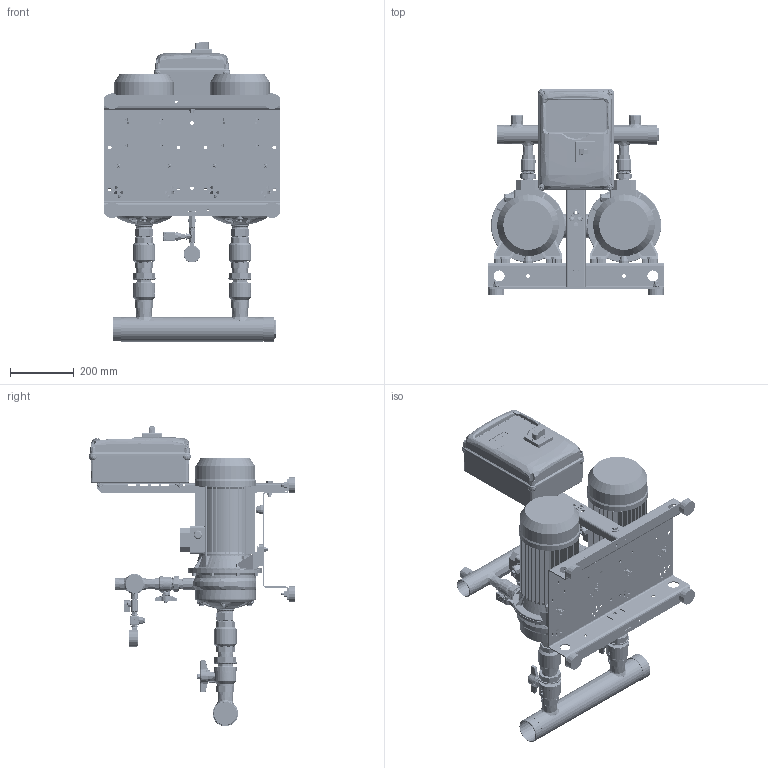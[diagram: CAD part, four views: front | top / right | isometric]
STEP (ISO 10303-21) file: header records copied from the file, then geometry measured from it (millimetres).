
FILE_DESCRIPTION((''),'2;1');
FILE_NAME('2GP_2CDX_200-50_REV5_ASM','2025-02-05T09:05:10',('Utente'),('"Ebara Pumps Europe S.p.A"'),'CREO PARAMETRIC BY PTC INC, 2022124','CREO PARAMETRIC BY PTC INC, 2022124','');
FILE_SCHEMA(('AUTOMOTIVE_DESIGN { 1 0 10303 214 1 1 1 1 }'));
Products named in the file (38): 62508_275562937; CALOTTA_F_A304_DN65_369800821; VAL_INT_MF-B_OTN_CIM346_DN40; VAL_INT_M-F-3_OTN_CIM346_DN40_ASM; VAL-NR-FF-OTN-CIM30-DN40; VAL_NR_F-F_OTN_CIM30_DN40_ASM; NIPPLO-ALIM_OT_DN40_361910052; TAPPO_M_OT_1-2_380000878; 3IEP_2CDX_200-50_IE3; EP_2CDX_200-50_ASM; VAL_INT_MF-B_OTN_CIM346_DN25; VAL_INT_M-F-3_OTN_CIM346_DN25_ASM; RONDEL-P_FE_ZN_UNI6592_M10; DADO_AUTOAGG_M10_ESAG; VITI_TE_ISO4017_M10_L30; 62510_275562942; CALOTTA_F_A304_DN50_369800820; TAPPO-SALVAFIL_D31; VAL_INT_MF_OTN_CIM012_DN8; NIPPLO_OTG_8_380000861; RACC-T_OTG_DN8_380000880; MAN_RAD_D50_10BAR_361600160; BASE_2GP_I300-B300_DNRV; MONTANTE_H600_271472877; PIEDINO_CIL_369650010; DADI_NORM_ISO4032_FE_ZN_M10; RONDEL-P_ZN_UNI6593_M10X30X2-5; VITI_TE_ISO4017_M10_L45; TRAVERSO_MONT_L200_271472882; RONDEL-P_FE_ZN_UNI6593_M6X18X2; RONDEL-P_FE_ZN_UNI6592_M6; VITI_TE_ISO4017_M6_L20; DADI_NORM_ISO4032_FE_ZN_M6; DNRV_2P_I300-B300_H600-Q220X300_ASM; COM_EP-PRO_2T_7-5KW_362334215; PG_PVC_D10-5_380000891; TRASD_16BAR_460500024; 2GP_2CDX_200-50_REV5_ASM
Assembly tree (83 placements, depth 3):
  2GP_2CDX_200-50_REV5_ASM
    62508_275562937
    CALOTTA_F_A304_DN65_369800821
    VAL_INT_M-F-3_OTN_CIM346_DN40_ASM  x2
      VAL_INT_MF-B_OTN_CIM346_DN40
    VAL_NR_F-F_OTN_CIM30_DN40_ASM  x2
      VAL-NR-FF-OTN-CIM30-DN40
    NIPPLO-ALIM_OT_DN40_361910052  x2
    TAPPO_M_OT_1-2_380000878  x2
    EP_2CDX_200-50_ASM  x2
      3IEP_2CDX_200-50_IE3
    VAL_INT_M-F-3_OTN_CIM346_DN25_ASM  x2
      VAL_INT_MF-B_OTN_CIM346_DN25
    RONDEL-P_FE_ZN_UNI6592_M10  x4
    DADO_AUTOAGG_M10_ESAG  x4
    VITI_TE_ISO4017_M10_L30  x4
    62510_275562942
    CALOTTA_F_A304_DN50_369800820
    TAPPO-SALVAFIL_D31  x2
    VAL_INT_MF_OTN_CIM012_DN8
    NIPPLO_OTG_8_380000861
    RACC-T_OTG_DN8_380000880
    MAN_RAD_D50_10BAR_361600160
    DNRV_2P_I300-B300_H600-Q220X300_ASM
      BASE_2GP_I300-B300_DNRV
      MONTANTE_H600_271472877
      PIEDINO_CIL_369650010  x4
      RONDEL-P_FE_ZN_UNI6592_M10  x4
      DADI_NORM_ISO4032_FE_ZN_M10  x4
      RONDEL-P_ZN_UNI6593_M10X30X2-5
      VITI_TE_ISO4017_M10_L45
      TRAVERSO_MONT_L200_271472882  x2
      RONDEL-P_FE_ZN_UNI6593_M6X18X2  x8
      RONDEL-P_FE_ZN_UNI6592_M6  x4
      VITI_TE_ISO4017_M6_L20  x4
      DADI_NORM_ISO4032_FE_ZN_M6  x4
      DADO_AUTOAGG_M10_ESAG
    COM_EP-PRO_2T_7-5KW_362334215
    PG_PVC_D10-5_380000891  x3
    TRASD_16BAR_460500024
Bounding box: 550 x 644.45 x 939.62 mm (x, y, z)
Volume: 20490555.1 mm3; surface area: 4014353.6 mm2
Topology: 1353 solids, 1488 shells, 21084 faces, 53739 edges, 35728 vertices
Faces by surface type: plane 14068, cylinder 3183, cone 1300, extrusion 943, bspline 873, torus 596, sphere 119, revolution 2
Entity records: 948163 total; most frequent: CARTESIAN_POINT 303564, ORIENTED_EDGE 79614, DIRECTION 74516, PRESENTATION_STYLE_ASSIGNMENT 51277, STYLED_ITEM 42164, EDGE_CURVE 40859, CURVE_STYLE 38616, VECTOR 30184
